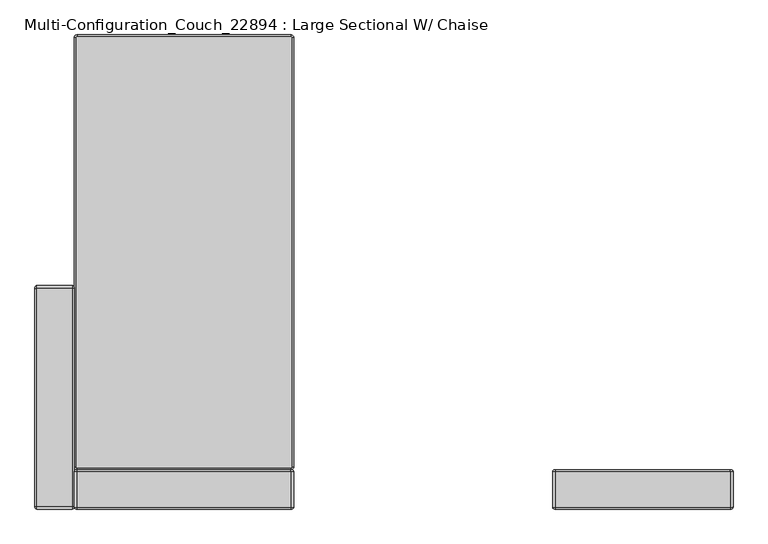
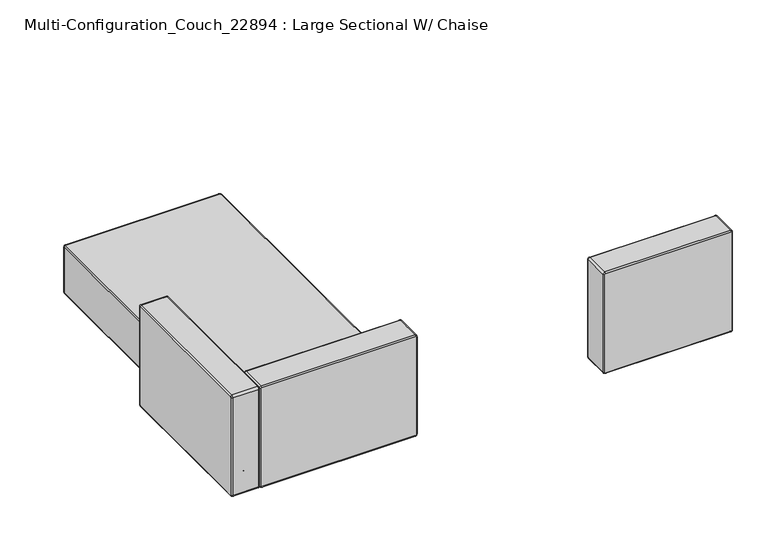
"""IFC4 building model written with IfcOpenShell, lengths in millimetres: furniture geometry, Multi-Configuration_Couch_22894 : Large Sectional W/ Chaise."""

from ifc_helpers import new_model, si_unit, point, frame, origin, place, context, project, spatial, circle_curve, ellipse_curve, trimmed, source, transform, mapped, element, save
from ifc_brep_helpers import plane_surface, cylinder_surface, revolved_surface, advanced_brep


def multi_configuration_couch_22894_large_sectional_w_chaise_6dab8dc7(model_context):
    return source(origin(), model_context, "Body", "AdvancedBrep", [
        advanced_brep(
        [(-842.6762295, -701.7270492, 549.275), (-839.5012295, -701.7270492, 552.45), (-147.3512295, -701.7270492, 552.45), (-144.1762295, -701.7270492, 549.275), (-144.1762295, -701.7270492, 85.725), (-147.3512295, -701.7270492, 82.55), (-839.5012295, -701.7270492, 82.55), (-842.6762295, -701.7270492, 85.725), (-842.6762295, -828.7270492, 85.725), (-839.5012295, -828.7270492, 82.55), (-147.3512295, -828.7270492, 82.55), (-144.1762295, -828.7270492, 85.725), (-144.1762295, -828.7270492, 549.275), (-147.3512295, -828.7270492, 552.45), (-839.5012295, -828.7270492, 552.45), (-842.6762295, -828.7270492, 549.275), (-839.5012295, -708.0770492, 558.8), (-839.5012295, -822.3770492, 558.8), (-147.3512295, -822.3770492, 558.8), (-147.3512295, -708.0770428, 558.8), (-849.0262295, -708.0770492, 85.725), (-849.0262295, -822.3770492, 85.725), (-849.0262295, -822.3770492, 549.275), (-849.0262295, -708.0770492, 549.275), (-147.3512295, -708.0770492, 76.2), (-147.3512295, -822.3770492, 76.2), (-839.5012295, -822.3770492, 76.2), (-839.5012295, -708.0770492, 76.2), (-137.8262295, -708.0770492, 549.275), (-137.8262295, -822.3770492, 549.275), (-137.8262295, -822.3770492, 85.725), (-137.8262295, -708.0770492, 85.725)],
        [
            (0, 1, circle_curve(frame((-839.5012295, -701.7270492, 549.275), z_axis=(0.0, 1.0, 0.0), x_axis=(0.0, 0.0, 1.0)), 3.175)),
            (1, 2),
            (2, 3, circle_curve(frame((-147.3512295, -701.7270492, 549.275), z_axis=(0.0, 1.0, 0.0), x_axis=(1.0, 0.0, 0.0)), 3.175)),
            (3, 4),
            (4, 5, circle_curve(frame((-147.3512295, -701.7270492, 85.725), z_axis=(0.0, 1.0, 0.0), x_axis=(0.0, 0.0, -1.0)), 3.175)),
            (5, 6),
            (6, 7, circle_curve(frame((-839.5012295, -701.7270492, 85.725), z_axis=(0.0, 1.0, 0.0), x_axis=(-1.0, 0.0, 0.0)), 3.175)),
            (7, 0),
            (8, 9, circle_curve(frame((-839.5012295, -828.7270492, 85.725), z_axis=(0.0, -1.0, 0.0), x_axis=(-1.0, 0.0, 0.0)), 3.175)),
            (9, 10),
            (10, 11, circle_curve(frame((-147.3512295, -828.7270492, 85.725), z_axis=(0.0, -1.0, 0.0), x_axis=(0.0, 0.0, -1.0)), 3.175)),
            (11, 12),
            (12, 13, circle_curve(frame((-147.3512295, -828.7270492, 549.275), z_axis=(0.0, -1.0, 0.0), x_axis=(1.0, 0.0, 0.0)), 3.175)),
            (13, 14),
            (14, 15, circle_curve(frame((-839.5012295, -828.7270492, 549.275), z_axis=(0.0, -1.0, 0.0), x_axis=(0.0, 0.0, 1.0)), 3.175)),
            (15, 8),
            (16, 17),
            (17, 18),
            (18, 19),
            (19, 16),
            (20, 21),
            (21, 22),
            (22, 23),
            (23, 20),
            (24, 25),
            (25, 26),
            (26, 27),
            (27, 24),
            (28, 29),
            (29, 30),
            (30, 31),
            (31, 28),
            (22, 17, circle_curve(frame((-839.5012295, -822.3770492, 549.275), z_axis=(0.0, 1.0, 0.0), x_axis=(1.0, 0.0, 0.0)), 9.525)),
            (16, 23, circle_curve(frame((-839.5012295, -708.0770492, 549.275), z_axis=(0.0, -1.0, 0.0), x_axis=(1.0, 0.0, 0.0)), 9.525)),
            (18, 29, circle_curve(frame((-147.3512295, -822.3770492, 549.275), z_axis=(0.0, 1.0, 0.0), x_axis=(1.0, 0.0, 0.0)), 9.525)),
            (28, 19, circle_curve(frame((-147.3512295, -708.0770492, 549.275), z_axis=(0.0, -1.0, 0.0), x_axis=(1.0, 0.0, 0.0)), 9.525)),
            (26, 21, circle_curve(frame((-839.5012295, -822.3770492, 85.725), z_axis=(0.0, 1.0, 0.0), x_axis=(1.0, 0.0, 0.0)), 9.525)),
            (20, 27, circle_curve(frame((-839.5012295, -708.0770492, 85.725), z_axis=(0.0, -1.0, 0.0), x_axis=(1.0, 0.0, 0.0)), 9.525)),
            (30, 25, circle_curve(frame((-147.3512295, -822.3770492, 85.725), z_axis=(0.0, 1.0, 0.0), x_axis=(1.0, 0.0, 0.0)), 9.525)),
            (24, 31, circle_curve(frame((-147.3512295, -708.0770492, 85.725), z_axis=(0.0, -1.0, 0.0), x_axis=(1.0, 0.0, 0.0)), 9.525)),
            (23, 0, circle_curve(frame((-842.6762295, -708.0770492, 549.275), z_axis=(0.0, 0.0, -1.0), x_axis=(1.0, 0.0, 0.0)), 6.35)),
            (7, 20, circle_curve(frame((-842.6762295, -708.0770492, 85.725), z_axis=(0.0, 0.0, 1.0), x_axis=(1.0, 0.0, 0.0)), 6.35)),
            (27, 6, circle_curve(frame((-839.5012295, -708.0770492, 82.55), z_axis=(1.0, 0.0, 0.0), x_axis=(0.0, 0.0, 1.0)), 6.35)),
            (5, 24, circle_curve(frame((-147.3512295, -708.0770492, 82.55), z_axis=(-1.0, 0.0, 0.0), x_axis=(0.0, 0.0, 1.0)), 6.35)),
            (31, 4, circle_curve(frame((-144.1762295, -708.0770492, 85.725), z_axis=(0.0, 0.0, 1.0), x_axis=(-1.0, 0.0, 0.0)), 6.35)),
            (3, 28, circle_curve(frame((-144.1762295, -708.0770492, 549.275), z_axis=(0.0, 0.0, -1.0), x_axis=(-1.0, 0.0, 0.0)), 6.35)),
            (2, 19, circle_curve(frame((-147.3512295, -708.0770492, 552.45), z_axis=(1.0, 0.0, 0.0), x_axis=(0.0, 0.0, -1.0)), 6.35)),
            (1, 16, circle_curve(frame((-839.5012295, -708.0770492, 552.45), z_axis=(1.0, 0.0, 0.0), x_axis=(0.0, 0.0, -1.0)), 6.35)),
            (15, 22, circle_curve(frame((-842.6762295, -822.3770492, 549.275), z_axis=(0.0, 0.0, -1.0), x_axis=(1.0, 0.0, 0.0)), 6.35)),
            (21, 8, circle_curve(frame((-842.6762295, -822.3770492, 85.725), z_axis=(0.0, 0.0, 1.0), x_axis=(1.0, 0.0, 0.0)), 6.35)),
            (9, 26, circle_curve(frame((-839.5012295, -822.3770492, 82.55), z_axis=(1.0, 0.0, 0.0), x_axis=(0.0, 0.0, 1.0)), 6.35)),
            (25, 10, circle_curve(frame((-147.3512295, -822.3770492, 82.55), z_axis=(-1.0, 0.0, 0.0), x_axis=(0.0, 0.0, 1.0)), 6.35)),
            (11, 30, circle_curve(frame((-144.1762295, -822.3770492, 85.725), z_axis=(0.0, 0.0, 1.0), x_axis=(-1.0, 0.0, 0.0)), 6.35)),
            (29, 12, circle_curve(frame((-144.1762295, -822.3770492, 549.275), z_axis=(0.0, 0.0, -1.0), x_axis=(-1.0, 0.0, 0.0)), 6.35)),
            (13, 18, circle_curve(frame((-147.3512295, -822.3770492, 552.45), z_axis=(-1.0, 0.0, 0.0), x_axis=(0.0, 0.0, -1.0)), 6.35)),
            (17, 14, circle_curve(frame((-839.5012295, -822.3770492, 552.45), z_axis=(1.0, 0.0, 0.0), x_axis=(0.0, 0.0, -1.0)), 6.35)),
        ],
        [
            plane_surface(frame((-849.0262295, -701.7270492, 558.8), z_axis=(0.0, 1.0, 0.0), x_axis=(-1.0, 0.0, 0.0))),
            plane_surface(frame((-849.0262295, -828.7270492, 558.8), z_axis=(0.0, -1.0, 0.0), x_axis=(1.0, 0.0, 0.0))),
            plane_surface(frame((-137.8262295, -701.7270492, 558.8), z_axis=(0.0, 0.0, 1.0), x_axis=(0.0, -1.0, 0.0))),
            plane_surface(frame((-849.0262295, -701.7270492, 558.8), z_axis=(-1.0, 0.0, 0.0), x_axis=(0.0, -1.0, 0.0))),
            plane_surface(frame((-849.0262295, -701.7270492, 76.2), z_axis=(0.0, 0.0, -1.0), x_axis=(0.0, -1.0, 0.0))),
            plane_surface(frame((-137.8262295, -701.7270492, 76.2), z_axis=(1.0, 0.0, 0.0), x_axis=(0.0, -1.0, 0.0))),
            cylinder_surface(frame((-839.5012295, -828.7270492, 549.275), z_axis=(0.0, -1.0, 0.0), x_axis=(1.0, 0.0, 0.0)), 9.525),
            cylinder_surface(frame((-147.3512295, -828.7270492, 549.275), z_axis=(0.0, -1.0, 0.0), x_axis=(1.0, 0.0, 0.0)), 9.525),
            cylinder_surface(frame((-839.5012295, -828.7270492, 85.725), z_axis=(0.0, -1.0, 0.0), x_axis=(1.0, 0.0, 0.0)), 9.525),
            cylinder_surface(frame((-147.3512295, -828.7270492, 85.725), z_axis=(0.0, -1.0, 0.0), x_axis=(1.0, 0.0, 0.0)), 9.525),
            cylinder_surface(frame((-842.6762295, -708.0770492, 549.275), z_axis=(0.0, 0.0, -1.0), x_axis=(1.0, 0.0, 0.0)), 6.35),
            cylinder_surface(frame((-839.5012295, -708.0770492, 82.55), z_axis=(1.0, 0.0, 0.0), x_axis=(0.0, 0.0, 1.0)), 6.35),
            cylinder_surface(frame((-144.1762295, -708.0770492, 85.725), z_axis=(0.0, 0.0, 1.0), x_axis=(-1.0, 0.0, 0.0)), 6.35),
            revolved_surface(trimmed(ellipse_curve(frame((-144.1762295, -708.0770492, 549.275), z_axis=(0.0, 0.0, 1.0), x_axis=(-1.0, 0.0, 0.0)), 6.35, 6.35), [point((-137.8262295, -708.0770492, 549.275))], [point((-144.1762295, -701.7270492, 549.275))], True, "CARTESIAN"), (-147.3512295, -701.7270492, 549.275), (0.0, 1.0, 0.0)),
            cylinder_surface(frame((-147.3512295, -708.0770492, 552.45), z_axis=(-1.0, 0.0, 0.0), x_axis=(0.0, 0.0, -1.0)), 6.35),
            cylinder_surface(frame((-842.6762295, -822.3770492, 549.275), z_axis=(0.0, 0.0, -1.0), x_axis=(1.0, 0.0, 0.0)), 6.35),
            cylinder_surface(frame((-839.5012295, -822.3770492, 82.55), z_axis=(1.0, 0.0, 0.0), x_axis=(0.0, 0.0, 1.0)), 6.35),
            cylinder_surface(frame((-144.1762295, -822.3770492, 85.725), z_axis=(0.0, 0.0, 1.0), x_axis=(-1.0, 0.0, 0.0)), 6.35),
            cylinder_surface(frame((-147.3512295, -822.3770492, 552.45), z_axis=(-1.0, 0.0, 0.0), x_axis=(0.0, 0.0, -1.0)), 6.35),
            revolved_surface(trimmed(ellipse_curve(frame((-839.5012295, -708.0770492, 552.45), z_axis=(-1.0, 0.0, 0.0), x_axis=(0.0, 0.0, -1.0)), 6.35, 6.35), [point((-839.5012295, -708.0770492, 558.8))], [point((-839.5012295, -701.7270492, 552.45))], True, "CARTESIAN"), (-839.5012295, -701.7270492, 549.275), (0.0, 1.0, 0.0)),
            revolved_surface(trimmed(ellipse_curve(frame((-842.6762295, -708.0770492, 85.725), z_axis=(0.0, 0.0, -1.0), x_axis=(1.0, 0.0, 0.0)), 6.35, 6.35), [point((-849.0262295, -708.0770492, 85.725))], [point((-842.6762295, -701.7270492, 85.725))], True, "CARTESIAN"), (-839.5012295, -701.7270492, 85.725), (0.0, 1.0, 0.0)),
            revolved_surface(trimmed(ellipse_curve(frame((-147.3512295, -708.0770492, 82.55), z_axis=(1.0, 0.0, 0.0), x_axis=(0.0, 0.0, 1.0)), 6.35, 6.35), [point((-147.3512295, -708.0770492, 76.2))], [point((-147.3512295, -701.7270492, 82.55))], True, "CARTESIAN"), (-147.3512295, -701.7270492, 85.725), (0.0, 1.0, 0.0)),
            revolved_surface(trimmed(ellipse_curve(frame((-839.5012295, -822.3770492, 552.45), z_axis=(-1.0, 0.0, 0.0), x_axis=(0.0, 0.0, -1.0)), 6.35, 6.35), [point((-839.5012295, -828.7270492, 552.45))], [point((-839.5012295, -822.3770492, 558.8))], True, "CARTESIAN"), (-839.5012295, -828.7270492, 549.275), (0.0, 1.0, 0.0)),
            revolved_surface(trimmed(ellipse_curve(frame((-842.6762295, -822.3770492, 85.725), z_axis=(0.0, 0.0, -1.0), x_axis=(1.0, 0.0, 0.0)), 6.35, 6.35), [point((-842.6762295, -828.7270492, 85.725))], [point((-849.0262295, -822.3770492, 85.725))], True, "CARTESIAN"), (-839.5012295, -828.7270492, 85.725), (0.0, 1.0, 0.0)),
            revolved_surface(trimmed(ellipse_curve(frame((-147.3512295, -822.3770492, 82.55), z_axis=(1.0, 0.0, 0.0), x_axis=(0.0, 0.0, 1.0)), 6.35, 6.35), [point((-147.3512295, -828.7270492, 82.55))], [point((-147.3512295, -822.3770492, 76.2))], True, "CARTESIAN"), (-147.3512295, -828.7270492, 85.725), (0.0, 1.0, 0.0)),
            revolved_surface(trimmed(ellipse_curve(frame((-144.1762295, -822.3770492, 549.275), z_axis=(0.0, 0.0, 1.0), x_axis=(-1.0, 0.0, 0.0)), 6.35, 6.35), [point((-144.1762295, -828.7270492, 549.275))], [point((-137.8262295, -822.3770492, 549.275))], True, "CARTESIAN"), (-147.3512295, -828.7270492, 549.275), (0.0, 1.0, 0.0)),
        ],
        [
            (0, [[1, 2, 3, 4, 5, 6, 7, 8]]),
            (1, [[9, 10, 11, 12, 13, 14, 15, 16]]),
            (2, [[17, 18, 19, 20]]),
            (3, [[21, 22, 23, 24]]),
            (4, [[25, 26, 27, 28]]),
            (5, [[29, 30, 31, 32]]),
            (6, [[-23, 33, -17, 34]]),
            (7, [[-19, 35, -29, 36]]),
            (8, [[-27, 37, -21, 38]]),
            (9, [[-31, 39, -25, 40]]),
            (10, [[-24, 41, -8, 42]]),
            (11, [[-28, 43, -6, 44]]),
            (12, [[-32, 45, -4, 46]]),
            (13, [[-3, 47, -36, -46]]),
            (14, [[-2, 48, -20, -47]]),
            (15, [[-16, 49, -22, 50]]),
            (16, [[-10, 51, -26, 52]]),
            (17, [[-12, 53, -30, 54]]),
            (18, [[-14, 55, -18, 56]]),
            (19, [[-34, -48, -1, -41]]),
            (20, [[-7, -43, -38, -42]]),
            (21, [[-5, -45, -40, -44]]),
            (22, [[-15, -56, -33, -49]]),
            (23, [[-37, -51, -9, -50]]),
            (24, [[-39, -53, -11, -52]]),
            (25, [[-35, -55, -13, -54]]),
        ],
    ),
        advanced_brep(
        [(-976.0262295, -822.3770492, 549.275), (-976.0262295, -819.2020492, 552.45), (-976.0262295, -114.3520492, 552.45), (-976.0262295, -111.1770492, 549.275), (-976.0262295, -111.1770492, 85.725), (-976.0262295, -114.3520492, 82.55), (-976.0262295, -819.2020492, 82.55), (-976.0262295, -822.3770492, 85.725), (-849.0262295, -822.3770492, 85.725), (-849.0262295, -819.2020492, 82.55), (-849.0262295, -114.3520492, 82.55), (-849.0262295, -111.1770492, 85.725), (-849.0262295, -111.1770492, 549.275), (-849.0262295, -114.3520492, 552.45), (-849.0262295, -819.2020492, 552.45), (-849.0262295, -822.3770492, 549.275), (-969.6762295, -819.2020492, 558.8), (-855.3762295, -819.2020492, 558.8), (-855.3762295, -114.3520492, 558.8), (-969.6762359, -114.3520492, 558.8), (-969.6762295, -828.7270492, 85.725), (-855.3762295, -828.7270492, 85.725), (-855.3762295, -828.7270492, 549.275), (-969.6762295, -828.7270492, 549.275), (-969.6762295, -114.3520492, 76.2), (-855.3762295, -114.3520492, 76.2), (-855.3762295, -819.2020492, 76.2), (-969.6762295, -819.2020492, 76.2), (-969.6762295, -104.8270492, 549.275), (-855.3762295, -104.8270492, 549.275), (-855.3762295, -104.8270492, 85.725), (-969.6762295, -104.8270492, 85.725)],
        [
            (0, 1, circle_curve(frame((-976.0262295, -819.2020492, 549.275), z_axis=(-1.0, 0.0, 0.0), x_axis=(0.0, 0.0, 1.0)), 3.175)),
            (1, 2),
            (2, 3, circle_curve(frame((-976.0262295, -114.3520492, 549.275), z_axis=(-1.0, 0.0, 0.0), x_axis=(0.0, 1.0, 0.0)), 3.175)),
            (3, 4),
            (4, 5, circle_curve(frame((-976.0262295, -114.3520492, 85.725), z_axis=(-1.0, 0.0, 0.0), x_axis=(0.0, 0.0, -1.0)), 3.175)),
            (5, 6),
            (6, 7, circle_curve(frame((-976.0262295, -819.2020492, 85.725), z_axis=(-1.0, 0.0, 0.0), x_axis=(0.0, -1.0, 0.0)), 3.175)),
            (7, 0),
            (8, 9, circle_curve(frame((-849.0262295, -819.2020492, 85.725), z_axis=(1.0, 0.0, 0.0), x_axis=(0.0, -1.0, 0.0)), 3.175)),
            (9, 10),
            (10, 11, circle_curve(frame((-849.0262295, -114.3520492, 85.725), z_axis=(1.0, 0.0, 0.0), x_axis=(0.0, 0.0, -1.0)), 3.175)),
            (11, 12),
            (12, 13, circle_curve(frame((-849.0262295, -114.3520492, 549.275), z_axis=(1.0, 0.0, 0.0), x_axis=(0.0, 1.0, 0.0)), 3.175)),
            (13, 14),
            (14, 15, circle_curve(frame((-849.0262295, -819.2020492, 549.275), z_axis=(1.0, 0.0, 0.0), x_axis=(0.0, 0.0, 1.0)), 3.175)),
            (15, 8),
            (16, 17),
            (17, 18),
            (18, 19),
            (19, 16),
            (20, 21),
            (21, 22),
            (22, 23),
            (23, 20),
            (24, 25),
            (25, 26),
            (26, 27),
            (27, 24),
            (28, 29),
            (29, 30),
            (30, 31),
            (31, 28),
            (22, 17, circle_curve(frame((-855.3762295, -819.2020492, 549.275), z_axis=(-1.0, 0.0, 0.0), x_axis=(0.0, 1.0, 0.0)), 9.525)),
            (16, 23, circle_curve(frame((-969.6762295, -819.2020492, 549.275), z_axis=(1.0, 0.0, 0.0), x_axis=(0.0, 1.0, 0.0)), 9.525)),
            (18, 29, circle_curve(frame((-855.3762295, -114.3520492, 549.275), z_axis=(-1.0, 0.0, 0.0), x_axis=(0.0, 1.0, 0.0)), 9.525)),
            (28, 19, circle_curve(frame((-969.6762295, -114.3520492, 549.275), z_axis=(1.0, 0.0, 0.0), x_axis=(0.0, 1.0, 0.0)), 9.525)),
            (26, 21, circle_curve(frame((-855.3762295, -819.2020492, 85.725), z_axis=(-1.0, 0.0, 0.0), x_axis=(0.0, 1.0, 0.0)), 9.525)),
            (20, 27, circle_curve(frame((-969.6762295, -819.2020492, 85.725), z_axis=(1.0, 0.0, 0.0), x_axis=(0.0, 1.0, 0.0)), 9.525)),
            (30, 25, circle_curve(frame((-855.3762295, -114.3520492, 85.725), z_axis=(-1.0, 0.0, 0.0), x_axis=(0.0, 1.0, 0.0)), 9.525)),
            (24, 31, circle_curve(frame((-969.6762295, -114.3520492, 85.725), z_axis=(1.0, 0.0, 0.0), x_axis=(0.0, 1.0, 0.0)), 9.525)),
            (23, 0, circle_curve(frame((-969.6762295, -822.3770492, 549.275), z_axis=(0.0, 0.0, -1.0), x_axis=(0.0, 1.0, 0.0)), 6.35)),
            (7, 20, circle_curve(frame((-969.6762295, -822.3770492, 85.725), z_axis=(0.0, 0.0, 1.0), x_axis=(0.0, 1.0, 0.0)), 6.35)),
            (27, 6, circle_curve(frame((-969.6762295, -819.2020492, 82.55), z_axis=(0.0, 1.0, 0.0), x_axis=(0.0, 0.0, 1.0)), 6.35)),
            (5, 24, circle_curve(frame((-969.6762295, -114.3520492, 82.55), z_axis=(0.0, -1.0, 0.0), x_axis=(0.0, 0.0, 1.0)), 6.35)),
            (31, 4, circle_curve(frame((-969.6762295, -111.1770492, 85.725), z_axis=(0.0, 0.0, 1.0), x_axis=(0.0, -1.0, 0.0)), 6.35)),
            (3, 28, circle_curve(frame((-969.6762295, -111.1770492, 549.275), z_axis=(0.0, 0.0, -1.0), x_axis=(0.0, -1.0, 0.0)), 6.35)),
            (2, 19, circle_curve(frame((-969.6762295, -114.3520492, 552.45), z_axis=(0.0, 1.0, 0.0), x_axis=(0.0, 0.0, -1.0)), 6.35)),
            (1, 16, circle_curve(frame((-969.6762295, -819.2020492, 552.45), z_axis=(0.0, 1.0, 0.0), x_axis=(0.0, 0.0, -1.0)), 6.35)),
            (15, 22, circle_curve(frame((-855.3762295, -822.3770492, 549.275), z_axis=(0.0, 0.0, -1.0), x_axis=(0.0, 1.0, 0.0)), 6.35)),
            (21, 8, circle_curve(frame((-855.3762295, -822.3770492, 85.725), z_axis=(0.0, 0.0, 1.0), x_axis=(0.0, 1.0, 0.0)), 6.35)),
            (9, 26, circle_curve(frame((-855.3762295, -819.2020492, 82.55), z_axis=(0.0, 1.0, 0.0), x_axis=(0.0, 0.0, 1.0)), 6.35)),
            (25, 10, circle_curve(frame((-855.3762295, -114.3520492, 82.55), z_axis=(0.0, -1.0, 0.0), x_axis=(0.0, 0.0, 1.0)), 6.35)),
            (11, 30, circle_curve(frame((-855.3762295, -111.1770492, 85.725), z_axis=(0.0, 0.0, 1.0), x_axis=(0.0, -1.0, 0.0)), 6.35)),
            (29, 12, circle_curve(frame((-855.3762295, -111.1770492, 549.275), z_axis=(0.0, 0.0, -1.0), x_axis=(0.0, -1.0, 0.0)), 6.35)),
            (13, 18, circle_curve(frame((-855.3762295, -114.3520492, 552.45), z_axis=(0.0, -1.0, 0.0), x_axis=(0.0, 0.0, -1.0)), 6.35)),
            (17, 14, circle_curve(frame((-855.3762295, -819.2020492, 552.45), z_axis=(0.0, 1.0, 0.0), x_axis=(0.0, 0.0, -1.0)), 6.35)),
        ],
        [
            plane_surface(frame((-976.0262295, -828.7270492, 558.8), z_axis=(-1.0, 0.0, 0.0), x_axis=(0.0, -1.0, 0.0))),
            plane_surface(frame((-849.0262295, -828.7270492, 558.8), z_axis=(1.0, 0.0, 0.0), x_axis=(0.0, 1.0, 0.0))),
            plane_surface(frame((-976.0262295, -104.8270492, 558.8), z_axis=(0.0, 0.0, 1.0), x_axis=(1.0, 0.0, 0.0))),
            plane_surface(frame((-976.0262295, -828.7270492, 558.8), z_axis=(0.0, -1.0, 0.0), x_axis=(1.0, 0.0, 0.0))),
            plane_surface(frame((-976.0262295, -828.7270492, 76.2), z_axis=(0.0, 0.0, -1.0), x_axis=(1.0, 0.0, 0.0))),
            plane_surface(frame((-976.0262295, -104.8270492, 76.2), z_axis=(0.0, 1.0, 0.0), x_axis=(1.0, 0.0, 0.0))),
            cylinder_surface(frame((-849.0262295, -819.2020492, 549.275), z_axis=(1.0, 0.0, 0.0), x_axis=(0.0, 1.0, 0.0)), 9.525),
            cylinder_surface(frame((-849.0262295, -114.3520492, 549.275), z_axis=(1.0, 0.0, 0.0), x_axis=(0.0, 1.0, 0.0)), 9.525),
            cylinder_surface(frame((-849.0262295, -819.2020492, 85.725), z_axis=(1.0, 0.0, 0.0), x_axis=(0.0, 1.0, 0.0)), 9.525),
            cylinder_surface(frame((-849.0262295, -114.3520492, 85.725), z_axis=(1.0, 0.0, 0.0), x_axis=(0.0, 1.0, 0.0)), 9.525),
            cylinder_surface(frame((-969.6762295, -822.3770492, 549.275), z_axis=(0.0, 0.0, -1.0), x_axis=(0.0, 1.0, 0.0)), 6.35),
            cylinder_surface(frame((-969.6762295, -819.2020492, 82.55), z_axis=(0.0, 1.0, 0.0), x_axis=(0.0, 0.0, 1.0)), 6.35),
            cylinder_surface(frame((-969.6762295, -111.1770492, 85.725), z_axis=(0.0, 0.0, 1.0), x_axis=(0.0, -1.0, 0.0)), 6.35),
            revolved_surface(trimmed(ellipse_curve(frame((-969.6762295, -111.1770492, 549.275), z_axis=(0.0, 0.0, 1.0), x_axis=(0.0, -1.0, 0.0)), 6.35, 6.35), [point((-969.6762295, -104.8270492, 549.275))], [point((-976.0262295, -111.1770492, 549.275))], True, "CARTESIAN"), (-976.0262295, -114.3520492, 549.275), (-1.0, 0.0, 0.0)),
            cylinder_surface(frame((-969.6762295, -114.3520492, 552.45), z_axis=(0.0, -1.0, 0.0), x_axis=(0.0, 0.0, -1.0)), 6.35),
            cylinder_surface(frame((-855.3762295, -822.3770492, 549.275), z_axis=(0.0, 0.0, -1.0), x_axis=(0.0, 1.0, 0.0)), 6.35),
            cylinder_surface(frame((-855.3762295, -819.2020492, 82.55), z_axis=(0.0, 1.0, 0.0), x_axis=(0.0, 0.0, 1.0)), 6.35),
            cylinder_surface(frame((-855.3762295, -111.1770492, 85.725), z_axis=(0.0, 0.0, 1.0), x_axis=(0.0, -1.0, 0.0)), 6.35),
            cylinder_surface(frame((-855.3762295, -114.3520492, 552.45), z_axis=(0.0, -1.0, 0.0), x_axis=(0.0, 0.0, -1.0)), 6.35),
            revolved_surface(trimmed(ellipse_curve(frame((-969.6762295, -819.2020492, 552.45), z_axis=(0.0, -1.0, 0.0), x_axis=(0.0, 0.0, -1.0)), 6.35, 6.35), [point((-969.6762295, -819.2020492, 558.8))], [point((-976.0262295, -819.2020492, 552.45))], True, "CARTESIAN"), (-976.0262295, -819.2020492, 549.275), (-1.0, 0.0, 0.0)),
            revolved_surface(trimmed(ellipse_curve(frame((-969.6762295, -822.3770492, 85.725), z_axis=(0.0, 0.0, -1.0), x_axis=(0.0, 1.0, 0.0)), 6.35, 6.35), [point((-969.6762295, -828.7270492, 85.725))], [point((-976.0262295, -822.3770492, 85.725))], True, "CARTESIAN"), (-976.0262295, -819.2020492, 85.725), (-1.0, 0.0, 0.0)),
            revolved_surface(trimmed(ellipse_curve(frame((-969.6762295, -114.3520492, 82.55), z_axis=(0.0, 1.0, 0.0), x_axis=(0.0, 0.0, 1.0)), 6.35, 6.35), [point((-969.6762295, -114.3520492, 76.2))], [point((-976.0262295, -114.3520492, 82.55))], True, "CARTESIAN"), (-976.0262295, -114.3520492, 85.725), (-1.0, 0.0, 0.0)),
            revolved_surface(trimmed(ellipse_curve(frame((-855.3762295, -819.2020492, 552.45), z_axis=(0.0, -1.0, 0.0), x_axis=(0.0, 0.0, -1.0)), 6.35, 6.35), [point((-849.0262295, -819.2020492, 552.45))], [point((-855.3762295, -819.2020492, 558.8))], True, "CARTESIAN"), (-849.0262295, -819.2020492, 549.275), (-1.0, 0.0, 0.0)),
            revolved_surface(trimmed(ellipse_curve(frame((-855.3762295, -822.3770492, 85.725), z_axis=(0.0, 0.0, -1.0), x_axis=(0.0, 1.0, 0.0)), 6.35, 6.35), [point((-849.0262295, -822.3770492, 85.725))], [point((-855.3762295, -828.7270492, 85.725))], True, "CARTESIAN"), (-849.0262295, -819.2020492, 85.725), (-1.0, 0.0, 0.0)),
            revolved_surface(trimmed(ellipse_curve(frame((-855.3762295, -114.3520492, 82.55), z_axis=(0.0, 1.0, 0.0), x_axis=(0.0, 0.0, 1.0)), 6.35, 6.35), [point((-849.0262295, -114.3520492, 82.55))], [point((-855.3762295, -114.3520492, 76.2))], True, "CARTESIAN"), (-849.0262295, -114.3520492, 85.725), (-1.0, 0.0, 0.0)),
            revolved_surface(trimmed(ellipse_curve(frame((-855.3762295, -111.1770492, 549.275), z_axis=(0.0, 0.0, 1.0), x_axis=(0.0, -1.0, 0.0)), 6.35, 6.35), [point((-849.0262295, -111.1770492, 549.275))], [point((-855.3762295, -104.8270492, 549.275))], True, "CARTESIAN"), (-849.0262295, -114.3520492, 549.275), (-1.0, 0.0, 0.0)),
        ],
        [
            (0, [[1, 2, 3, 4, 5, 6, 7, 8]]),
            (1, [[9, 10, 11, 12, 13, 14, 15, 16]]),
            (2, [[17, 18, 19, 20]]),
            (3, [[21, 22, 23, 24]]),
            (4, [[25, 26, 27, 28]]),
            (5, [[29, 30, 31, 32]]),
            (6, [[-23, 33, -17, 34]]),
            (7, [[-19, 35, -29, 36]]),
            (8, [[-27, 37, -21, 38]]),
            (9, [[-31, 39, -25, 40]]),
            (10, [[-24, 41, -8, 42]]),
            (11, [[-28, 43, -6, 44]]),
            (12, [[-32, 45, -4, 46]]),
            (13, [[-3, 47, -36, -46]]),
            (14, [[-2, 48, -20, -47]]),
            (15, [[-16, 49, -22, 50]]),
            (16, [[-10, 51, -26, 52]]),
            (17, [[-12, 53, -30, 54]]),
            (18, [[-14, 55, -18, 56]]),
            (19, [[-34, -48, -1, -41]]),
            (20, [[-7, -43, -38, -42]]),
            (21, [[-5, -45, -40, -44]]),
            (22, [[-15, -56, -33, -49]]),
            (23, [[-37, -51, -9, -50]]),
            (24, [[-39, -53, -11, -52]]),
            (25, [[-35, -55, -13, -54]]),
        ],
    ),
        advanced_brep(
        [(-144.1762295, 698.4479508, 304.8), (-147.3512295, 701.6229508, 304.8), (-839.5012295, 701.6229508, 304.8), (-842.6762295, 698.4479508, 304.8), (-842.6762295, -692.2020492, 304.8), (-839.5012295, -695.3770492, 304.8), (-147.3512295, -695.3770492, 304.8), (-144.1762295, -692.2020492, 304.8), (-144.1762295, -692.2020492, 76.2), (-147.3512295, -695.3770492, 76.2), (-839.5012295, -695.3770492, 76.2), (-842.6762295, -692.2020492, 76.2), (-842.6762295, 698.4479508, 76.2), (-839.5012295, 701.6229508, 76.2), (-147.3512295, 701.6229508, 76.2), (-144.1762295, 698.4479508, 76.2), (-147.3512295, 707.9729508, 298.45), (-147.3512295, 707.9729508, 82.55), (-839.5012295, 707.9729508, 82.55), (-839.5012295, 707.9729508, 298.4500062), (-137.8262295, -692.2020492, 298.45), (-137.8262295, -692.2020492, 82.55), (-137.8262295, 698.4479508, 82.55), (-137.8262295, 698.4479508, 298.45), (-839.5012295, -701.7270492, 298.45), (-839.5012295, -701.7270492, 82.55), (-147.3512295, -701.7270492, 82.55), (-147.3512295, -701.7270492, 298.45), (-849.0262295, 698.4479508, 298.45), (-849.0262295, 698.4479508, 82.55), (-849.0262295, -692.2020492, 82.55), (-849.0262295, -692.2020492, 298.45)],
        [
            (0, 1, circle_curve(frame((-147.3512295, 698.4479508, 304.8), z_axis=(0.0, 0.0, 1.0), x_axis=(0.0, 1.0, 0.0)), 3.175)),
            (1, 2),
            (2, 3, circle_curve(frame((-839.5012295, 698.4479508, 304.8), z_axis=(0.0, 0.0, 1.0), x_axis=(-1.0, 0.0, 0.0)), 3.175)),
            (3, 4),
            (4, 5, circle_curve(frame((-839.5012295, -692.2020492, 304.8), z_axis=(0.0, 0.0, 1.0), x_axis=(0.0, -1.0, 0.0)), 3.175)),
            (5, 6),
            (6, 7, circle_curve(frame((-147.3512295, -692.2020492, 304.8), z_axis=(0.0, 0.0, 1.0), x_axis=(1.0, 0.0, 0.0)), 3.175)),
            (7, 0),
            (8, 9, circle_curve(frame((-147.3512295, -692.2020492, 76.2), z_axis=(0.0, 0.0, -1.0), x_axis=(1.0, 0.0, 0.0)), 3.175)),
            (9, 10),
            (10, 11, circle_curve(frame((-839.5012295, -692.2020492, 76.2), z_axis=(0.0, 0.0, -1.0), x_axis=(0.0, -1.0, 0.0)), 3.175)),
            (11, 12),
            (12, 13, circle_curve(frame((-839.5012295, 698.4479508, 76.2), z_axis=(0.0, 0.0, -1.0), x_axis=(-1.0, 0.0, 0.0)), 3.175)),
            (13, 14),
            (14, 15, circle_curve(frame((-147.3512295, 698.4479508, 76.2), z_axis=(0.0, 0.0, -1.0), x_axis=(0.0, 1.0, 0.0)), 3.175)),
            (15, 8),
            (16, 17),
            (17, 18),
            (18, 19),
            (19, 16),
            (20, 21),
            (21, 22),
            (22, 23),
            (23, 20),
            (24, 25),
            (25, 26),
            (26, 27),
            (27, 24),
            (28, 29),
            (29, 30),
            (30, 31),
            (31, 28),
            (22, 17, circle_curve(frame((-147.3512295, 698.4479508, 82.55), z_axis=(0.0, 0.0, 1.0), x_axis=(-1.0, 0.0, 0.0)), 9.525)),
            (16, 23, circle_curve(frame((-147.3512295, 698.4479508, 298.45), z_axis=(0.0, 0.0, -1.0), x_axis=(-1.0, 0.0, 0.0)), 9.525)),
            (18, 29, circle_curve(frame((-839.5012295, 698.4479508, 82.55), z_axis=(0.0, 0.0, 1.0), x_axis=(-1.0, 0.0, 0.0)), 9.525)),
            (28, 19, circle_curve(frame((-839.5012295, 698.4479508, 298.45), z_axis=(0.0, 0.0, -1.0), x_axis=(-1.0, 0.0, 0.0)), 9.525)),
            (26, 21, circle_curve(frame((-147.3512295, -692.2020492, 82.55), z_axis=(0.0, 0.0, 1.0), x_axis=(-1.0, 0.0, 0.0)), 9.525)),
            (20, 27, circle_curve(frame((-147.3512295, -692.2020492, 298.45), z_axis=(0.0, 0.0, -1.0), x_axis=(-1.0, 0.0, 0.0)), 9.525)),
            (30, 25, circle_curve(frame((-839.5012295, -692.2020492, 82.55), z_axis=(0.0, 0.0, 1.0), x_axis=(-1.0, 0.0, 0.0)), 9.525)),
            (24, 31, circle_curve(frame((-839.5012295, -692.2020492, 298.45), z_axis=(0.0, 0.0, -1.0), x_axis=(-1.0, 0.0, 0.0)), 9.525)),
            (23, 0, circle_curve(frame((-144.1762295, 698.4479508, 298.45), z_axis=(0.0, -1.0, 0.0), x_axis=(-1.0, 0.0, 0.0)), 6.35)),
            (7, 20, circle_curve(frame((-144.1762295, -692.2020492, 298.45), z_axis=(0.0, 1.0, 0.0), x_axis=(-1.0, 0.0, 0.0)), 6.35)),
            (27, 6, circle_curve(frame((-147.3512295, -695.3770492, 298.45), z_axis=(-1.0, 0.0, 0.0), x_axis=(0.0, 1.0, 0.0)), 6.35)),
            (5, 24, circle_curve(frame((-839.5012295, -695.3770492, 298.45), z_axis=(1.0, 0.0, 0.0), x_axis=(0.0, 1.0, 0.0)), 6.35)),
            (31, 4, circle_curve(frame((-842.6762295, -692.2020492, 298.45), z_axis=(0.0, 1.0, 0.0), x_axis=(1.0, 0.0, 0.0)), 6.35)),
            (3, 28, circle_curve(frame((-842.6762295, 698.4479508, 298.45), z_axis=(0.0, -1.0, 0.0), x_axis=(1.0, 0.0, 0.0)), 6.35)),
            (2, 19, circle_curve(frame((-839.5012295, 701.6229508, 298.45), z_axis=(-1.0, 0.0, 0.0), x_axis=(0.0, -1.0, 0.0)), 6.35)),
            (1, 16, circle_curve(frame((-147.3512295, 701.6229508, 298.45), z_axis=(-1.0, 0.0, 0.0), x_axis=(0.0, -1.0, 0.0)), 6.35)),
            (15, 22, circle_curve(frame((-144.1762295, 698.4479508, 82.55), z_axis=(0.0, -1.0, 0.0), x_axis=(-1.0, 0.0, 0.0)), 6.35)),
            (21, 8, circle_curve(frame((-144.1762295, -692.2020492, 82.55), z_axis=(0.0, 1.0, 0.0), x_axis=(-1.0, 0.0, 0.0)), 6.35)),
            (9, 26, circle_curve(frame((-147.3512295, -695.3770492, 82.55), z_axis=(-1.0, 0.0, 0.0), x_axis=(0.0, 1.0, 0.0)), 6.35)),
            (25, 10, circle_curve(frame((-839.5012295, -695.3770492, 82.55), z_axis=(1.0, 0.0, 0.0), x_axis=(0.0, 1.0, 0.0)), 6.35)),
            (11, 30, circle_curve(frame((-842.6762295, -692.2020492, 82.55), z_axis=(0.0, 1.0, 0.0), x_axis=(1.0, 0.0, 0.0)), 6.35)),
            (29, 12, circle_curve(frame((-842.6762295, 698.4479508, 82.55), z_axis=(0.0, -1.0, 0.0), x_axis=(1.0, 0.0, 0.0)), 6.35)),
            (13, 18, circle_curve(frame((-839.5012295, 701.6229508, 82.55), z_axis=(1.0, 0.0, 0.0), x_axis=(0.0, -1.0, 0.0)), 6.35)),
            (17, 14, circle_curve(frame((-147.3512295, 701.6229508, 82.55), z_axis=(-1.0, 0.0, 0.0), x_axis=(0.0, -1.0, 0.0)), 6.35)),
        ],
        [
            plane_surface(frame((-137.8262295, 707.9729508, 304.8), z_axis=(0.0, 0.0, 1.0), x_axis=(1.0, 0.0, 0.0))),
            plane_surface(frame((-137.8262295, 707.9729508, 76.2), z_axis=(0.0, 0.0, -1.0), x_axis=(-1.0, 0.0, 0.0))),
            plane_surface(frame((-849.0262295, 707.9729508, 304.8), z_axis=(0.0, 1.0, 0.0), x_axis=(0.0, 0.0, -1.0))),
            plane_surface(frame((-137.8262295, 707.9729508, 304.8), z_axis=(1.0, 0.0, 0.0), x_axis=(0.0, 0.0, -1.0))),
            plane_surface(frame((-137.8262295, -701.7270492, 304.8), z_axis=(0.0, -1.0, 0.0), x_axis=(0.0, 0.0, -1.0))),
            plane_surface(frame((-849.0262295, -701.7270492, 304.8), z_axis=(-1.0, 0.0, 0.0), x_axis=(0.0, 0.0, -1.0))),
            cylinder_surface(frame((-147.3512295, 698.4479508, 76.2), z_axis=(0.0, 0.0, -1.0), x_axis=(-1.0, 0.0, 0.0)), 9.525),
            cylinder_surface(frame((-839.5012295, 698.4479508, 76.2), z_axis=(0.0, 0.0, -1.0), x_axis=(-1.0, 0.0, 0.0)), 9.525),
            cylinder_surface(frame((-147.3512295, -692.2020492, 76.2), z_axis=(0.0, 0.0, -1.0), x_axis=(-1.0, 0.0, 0.0)), 9.525),
            cylinder_surface(frame((-839.5012295, -692.2020492, 76.2), z_axis=(0.0, 0.0, -1.0), x_axis=(-1.0, 0.0, 0.0)), 9.525),
            cylinder_surface(frame((-144.1762295, 698.4479508, 298.45), z_axis=(0.0, -1.0, 0.0), x_axis=(-1.0, 0.0, 0.0)), 6.35),
            cylinder_surface(frame((-147.3512295, -695.3770492, 298.45), z_axis=(-1.0, 0.0, 0.0), x_axis=(0.0, 1.0, 0.0)), 6.35),
            cylinder_surface(frame((-842.6762295, -692.2020492, 298.45), z_axis=(0.0, 1.0, 0.0), x_axis=(1.0, 0.0, 0.0)), 6.35),
            revolved_surface(trimmed(ellipse_curve(frame((-842.6762295, 698.4479508, 298.45), z_axis=(0.0, 1.0, 0.0), x_axis=(1.0, 0.0, 0.0)), 6.35, 6.35), [point((-849.0262295, 698.4479508, 298.45))], [point((-842.6762295, 698.4479508, 304.8))], True, "CARTESIAN"), (-839.5012295, 698.4479508, 304.8), (0.0, 0.0, 1.0)),
            cylinder_surface(frame((-839.5012295, 701.6229508, 298.45), z_axis=(1.0, 0.0, 0.0), x_axis=(0.0, -1.0, 0.0)), 6.35),
            cylinder_surface(frame((-144.1762295, 698.4479508, 82.55), z_axis=(0.0, -1.0, 0.0), x_axis=(-1.0, 0.0, 0.0)), 6.35),
            cylinder_surface(frame((-147.3512295, -695.3770492, 82.55), z_axis=(-1.0, 0.0, 0.0), x_axis=(0.0, 1.0, 0.0)), 6.35),
            cylinder_surface(frame((-842.6762295, -692.2020492, 82.55), z_axis=(0.0, 1.0, 0.0), x_axis=(1.0, 0.0, 0.0)), 6.35),
            cylinder_surface(frame((-839.5012295, 701.6229508, 82.55), z_axis=(1.0, 0.0, 0.0), x_axis=(0.0, -1.0, 0.0)), 6.35),
            revolved_surface(trimmed(ellipse_curve(frame((-147.3512295, 701.6229508, 298.45), z_axis=(1.0, 0.0, 0.0), x_axis=(0.0, -1.0, 0.0)), 6.35, 6.35), [point((-147.3512295, 707.9729508, 298.45))], [point((-147.3512295, 701.6229508, 304.8))], True, "CARTESIAN"), (-147.3512295, 698.4479508, 304.8), (0.0, 0.0, 1.0)),
            revolved_surface(trimmed(ellipse_curve(frame((-144.1762295, -692.2020492, 298.45), z_axis=(0.0, -1.0, 0.0), x_axis=(-1.0, 0.0, 0.0)), 6.35, 6.35), [point((-137.8262295, -692.2020492, 298.45))], [point((-144.1762295, -692.2020492, 304.8))], True, "CARTESIAN"), (-147.3512295, -692.2020492, 304.8), (0.0, 0.0, 1.0)),
            revolved_surface(trimmed(ellipse_curve(frame((-839.5012295, -695.3770492, 298.45), z_axis=(-1.0, 0.0, 0.0), x_axis=(0.0, 1.0, 0.0)), 6.35, 6.35), [point((-839.5012295, -701.7270492, 298.45))], [point((-839.5012295, -695.3770492, 304.8))], True, "CARTESIAN"), (-839.5012295, -692.2020492, 304.8), (0.0, 0.0, 1.0)),
            revolved_surface(trimmed(ellipse_curve(frame((-147.3512295, 701.6229508, 82.55), z_axis=(1.0, 0.0, 0.0), x_axis=(0.0, -1.0, 0.0)), 6.35, 6.35), [point((-147.3512295, 701.6229508, 76.2))], [point((-147.3512295, 707.9729508, 82.55))], True, "CARTESIAN"), (-147.3512295, 698.4479508, 76.2), (0.0, 0.0, 1.0)),
            revolved_surface(trimmed(ellipse_curve(frame((-144.1762295, -692.2020492, 82.55), z_axis=(0.0, -1.0, 0.0), x_axis=(-1.0, 0.0, 0.0)), 6.35, 6.35), [point((-144.1762295, -692.2020492, 76.2))], [point((-137.8262295, -692.2020492, 82.55))], True, "CARTESIAN"), (-147.3512295, -692.2020492, 76.2), (0.0, 0.0, 1.0)),
            revolved_surface(trimmed(ellipse_curve(frame((-839.5012295, -695.3770492, 82.55), z_axis=(-1.0, 0.0, 0.0), x_axis=(0.0, 1.0, 0.0)), 6.35, 6.35), [point((-839.5012295, -695.3770492, 76.2))], [point((-839.5012295, -701.7270492, 82.55))], True, "CARTESIAN"), (-839.5012295, -692.2020492, 76.2), (0.0, 0.0, 1.0)),
            revolved_surface(trimmed(ellipse_curve(frame((-842.6762295, 698.4479508, 82.55), z_axis=(0.0, 1.0, 0.0), x_axis=(1.0, 0.0, 0.0)), 6.35, 6.35), [point((-842.6762295, 698.4479508, 76.2))], [point((-849.0262295, 698.4479508, 82.55))], True, "CARTESIAN"), (-839.5012295, 698.4479508, 76.2), (0.0, 0.0, 1.0)),
        ],
        [
            (0, [[1, 2, 3, 4, 5, 6, 7, 8]]),
            (1, [[9, 10, 11, 12, 13, 14, 15, 16]]),
            (2, [[17, 18, 19, 20]]),
            (3, [[21, 22, 23, 24]]),
            (4, [[25, 26, 27, 28]]),
            (5, [[29, 30, 31, 32]]),
            (6, [[-23, 33, -17, 34]]),
            (7, [[-19, 35, -29, 36]]),
            (8, [[-27, 37, -21, 38]]),
            (9, [[-31, 39, -25, 40]]),
            (10, [[-24, 41, -8, 42]]),
            (11, [[-28, 43, -6, 44]]),
            (12, [[-32, 45, -4, 46]]),
            (13, [[-3, 47, -36, -46]]),
            (14, [[-2, 48, -20, -47]]),
            (15, [[-16, 49, -22, 50]]),
            (16, [[-10, 51, -26, 52]]),
            (17, [[-12, 53, -30, 54]]),
            (18, [[-14, 55, -18, 56]]),
            (19, [[-34, -48, -1, -41]]),
            (20, [[-7, -43, -38, -42]]),
            (21, [[-5, -45, -40, -44]]),
            (22, [[-15, -56, -33, -49]]),
            (23, [[-37, -51, -9, -50]]),
            (24, [[-39, -53, -11, -52]]),
            (25, [[-35, -55, -13, -54]]),
        ],
    ),
        advanced_brep(
        [(706.7237705, -701.7270492, 549.275), (709.8987705, -701.7270492, 552.45), (1275.0487705, -701.7270492, 552.45), (1278.2237705, -701.7270492, 549.275), (1278.2237705, -701.7270492, 85.725), (1275.0487705, -701.7270492, 82.55), (709.8987705, -701.7270492, 82.55), (706.7237705, -701.7270492, 85.725), (706.7237705, -828.7270492, 85.725), (709.8987705, -828.7270492, 82.55), (1275.0487705, -828.7270492, 82.55), (1278.2237705, -828.7270492, 85.725), (1278.2237705, -828.7270492, 549.275), (1275.0487705, -828.7270492, 552.45), (709.8987705, -828.7270492, 552.45), (706.7237705, -828.7270492, 549.275), (709.8987705, -708.0770492, 558.8), (709.8987705, -822.3770492, 558.8), (1275.0487705, -822.3770492, 558.8), (1275.0487705, -708.0770428, 558.8), (700.3737705, -708.0770492, 85.725), (700.3737705, -822.3770492, 85.725), (700.3737705, -822.3770492, 549.275), (700.3737705, -708.0770492, 549.275), (1275.0487705, -708.0770492, 76.2), (1275.0487705, -822.3770492, 76.2), (709.8987705, -822.3770492, 76.2), (709.8987705, -708.0770492, 76.2), (1284.5737705, -708.0770492, 549.275), (1284.5737705, -822.3770492, 549.275), (1284.5737705, -822.3770492, 85.725), (1284.5737705, -708.0770492, 85.725)],
        [
            (0, 1, circle_curve(frame((709.8987705, -701.7270492, 549.275), z_axis=(0.0, 1.0, 0.0), x_axis=(0.0, 0.0, 1.0)), 3.175)),
            (1, 2),
            (2, 3, circle_curve(frame((1275.0487705, -701.7270492, 549.275), z_axis=(0.0, 1.0, 0.0), x_axis=(1.0, 0.0, 0.0)), 3.175)),
            (3, 4),
            (4, 5, circle_curve(frame((1275.0487705, -701.7270492, 85.725), z_axis=(0.0, 1.0, 0.0), x_axis=(0.0, 0.0, -1.0)), 3.175)),
            (5, 6),
            (6, 7, circle_curve(frame((709.8987705, -701.7270492, 85.725), z_axis=(0.0, 1.0, 0.0), x_axis=(-1.0, 0.0, 0.0)), 3.175)),
            (7, 0),
            (8, 9, circle_curve(frame((709.8987705, -828.7270492, 85.725), z_axis=(0.0, -1.0, 0.0), x_axis=(-1.0, 0.0, 0.0)), 3.175)),
            (9, 10),
            (10, 11, circle_curve(frame((1275.0487705, -828.7270492, 85.725), z_axis=(0.0, -1.0, 0.0), x_axis=(0.0, 0.0, -1.0)), 3.175)),
            (11, 12),
            (12, 13, circle_curve(frame((1275.0487705, -828.7270492, 549.275), z_axis=(0.0, -1.0, 0.0), x_axis=(1.0, 0.0, 0.0)), 3.175)),
            (13, 14),
            (14, 15, circle_curve(frame((709.8987705, -828.7270492, 549.275), z_axis=(0.0, -1.0, 0.0), x_axis=(0.0, 0.0, 1.0)), 3.175)),
            (15, 8),
            (16, 17),
            (17, 18),
            (18, 19),
            (19, 16),
            (20, 21),
            (21, 22),
            (22, 23),
            (23, 20),
            (24, 25),
            (25, 26),
            (26, 27),
            (27, 24),
            (28, 29),
            (29, 30),
            (30, 31),
            (31, 28),
            (22, 17, circle_curve(frame((709.8987705, -822.3770492, 549.275), z_axis=(0.0, 1.0, 0.0), x_axis=(1.0, 0.0, 0.0)), 9.525)),
            (16, 23, circle_curve(frame((709.8987705, -708.0770492, 549.275), z_axis=(0.0, -1.0, 0.0), x_axis=(1.0, 0.0, 0.0)), 9.525)),
            (18, 29, circle_curve(frame((1275.0487705, -822.3770492, 549.275), z_axis=(0.0, 1.0, 0.0), x_axis=(1.0, 0.0, 0.0)), 9.525)),
            (28, 19, circle_curve(frame((1275.0487705, -708.0770492, 549.275), z_axis=(0.0, -1.0, 0.0), x_axis=(1.0, 0.0, 0.0)), 9.525)),
            (26, 21, circle_curve(frame((709.8987705, -822.3770492, 85.725), z_axis=(0.0, 1.0, 0.0), x_axis=(1.0, 0.0, 0.0)), 9.525)),
            (20, 27, circle_curve(frame((709.8987705, -708.0770492, 85.725), z_axis=(0.0, -1.0, 0.0), x_axis=(1.0, 0.0, 0.0)), 9.525)),
            (30, 25, circle_curve(frame((1275.0487705, -822.3770492, 85.725), z_axis=(0.0, 1.0, 0.0), x_axis=(1.0, 0.0, 0.0)), 9.525)),
            (24, 31, circle_curve(frame((1275.0487705, -708.0770492, 85.725), z_axis=(0.0, -1.0, 0.0), x_axis=(1.0, 0.0, 0.0)), 9.525)),
            (23, 0, circle_curve(frame((706.7237705, -708.0770492, 549.275), z_axis=(0.0, 0.0, -1.0), x_axis=(1.0, 0.0, 0.0)), 6.35)),
            (7, 20, circle_curve(frame((706.7237705, -708.0770492, 85.725), z_axis=(0.0, 0.0, 1.0), x_axis=(1.0, 0.0, 0.0)), 6.35)),
            (27, 6, circle_curve(frame((709.8987705, -708.0770492, 82.55), z_axis=(1.0, 0.0, 0.0), x_axis=(0.0, 0.0, 1.0)), 6.35)),
            (5, 24, circle_curve(frame((1275.0487705, -708.0770492, 82.55), z_axis=(-1.0, 0.0, 0.0), x_axis=(0.0, 0.0, 1.0)), 6.35)),
            (31, 4, circle_curve(frame((1278.2237705, -708.0770492, 85.725), z_axis=(0.0, 0.0, 1.0), x_axis=(-1.0, 0.0, 0.0)), 6.35)),
            (3, 28, circle_curve(frame((1278.2237705, -708.0770492, 549.275), z_axis=(0.0, 0.0, -1.0), x_axis=(-1.0, 0.0, 0.0)), 6.35)),
            (2, 19, circle_curve(frame((1275.0487705, -708.0770492, 552.45), z_axis=(1.0, 0.0, 0.0), x_axis=(0.0, 0.0, -1.0)), 6.35)),
            (1, 16, circle_curve(frame((709.8987705, -708.0770492, 552.45), z_axis=(1.0, 0.0, 0.0), x_axis=(0.0, 0.0, -1.0)), 6.35)),
            (15, 22, circle_curve(frame((706.7237705, -822.3770492, 549.275), z_axis=(0.0, 0.0, -1.0), x_axis=(1.0, 0.0, 0.0)), 6.35)),
            (21, 8, circle_curve(frame((706.7237705, -822.3770492, 85.725), z_axis=(0.0, 0.0, 1.0), x_axis=(1.0, 0.0, 0.0)), 6.35)),
            (9, 26, circle_curve(frame((709.8987705, -822.3770492, 82.55), z_axis=(1.0, 0.0, 0.0), x_axis=(0.0, 0.0, 1.0)), 6.35)),
            (25, 10, circle_curve(frame((1275.0487705, -822.3770492, 82.55), z_axis=(-1.0, 0.0, 0.0), x_axis=(0.0, 0.0, 1.0)), 6.35)),
            (11, 30, circle_curve(frame((1278.2237705, -822.3770492, 85.725), z_axis=(0.0, 0.0, 1.0), x_axis=(-1.0, 0.0, 0.0)), 6.35)),
            (29, 12, circle_curve(frame((1278.2237705, -822.3770492, 549.275), z_axis=(0.0, 0.0, -1.0), x_axis=(-1.0, 0.0, 0.0)), 6.35)),
            (13, 18, circle_curve(frame((1275.0487705, -822.3770492, 552.45), z_axis=(-1.0, 0.0, 0.0), x_axis=(0.0, 0.0, -1.0)), 6.35)),
            (17, 14, circle_curve(frame((709.8987705, -822.3770492, 552.45), z_axis=(1.0, 0.0, 0.0), x_axis=(0.0, 0.0, -1.0)), 6.35)),
        ],
        [
            plane_surface(frame((700.3737705, -701.7270492, 558.8), z_axis=(0.0, 1.0, 0.0), x_axis=(-1.0, 0.0, 0.0))),
            plane_surface(frame((700.3737705, -828.7270492, 558.8), z_axis=(0.0, -1.0, 0.0), x_axis=(1.0, 0.0, 0.0))),
            plane_surface(frame((1284.5737705, -701.7270492, 558.8), z_axis=(0.0, 0.0, 1.0), x_axis=(0.0, -1.0, 0.0))),
            plane_surface(frame((700.3737705, -701.7270492, 558.8), z_axis=(-1.0, 0.0, 0.0), x_axis=(0.0, -1.0, 0.0))),
            plane_surface(frame((700.3737705, -701.7270492, 76.2), z_axis=(0.0, 0.0, -1.0), x_axis=(0.0, -1.0, 0.0))),
            plane_surface(frame((1284.5737705, -701.7270492, 76.2), z_axis=(1.0, 0.0, 0.0), x_axis=(0.0, -1.0, 0.0))),
            cylinder_surface(frame((709.8987705, -828.7270492, 549.275), z_axis=(0.0, -1.0, 0.0), x_axis=(1.0, 0.0, 0.0)), 9.525),
            cylinder_surface(frame((1275.0487705, -828.7270492, 549.275), z_axis=(0.0, -1.0, 0.0), x_axis=(1.0, 0.0, 0.0)), 9.525),
            cylinder_surface(frame((709.8987705, -828.7270492, 85.725), z_axis=(0.0, -1.0, 0.0), x_axis=(1.0, 0.0, 0.0)), 9.525),
            cylinder_surface(frame((1275.0487705, -828.7270492, 85.725), z_axis=(0.0, -1.0, 0.0), x_axis=(1.0, 0.0, 0.0)), 9.525),
            cylinder_surface(frame((706.7237705, -708.0770492, 549.275), z_axis=(0.0, 0.0, -1.0), x_axis=(1.0, 0.0, 0.0)), 6.35),
            cylinder_surface(frame((709.8987705, -708.0770492, 82.55), z_axis=(1.0, 0.0, 0.0), x_axis=(0.0, 0.0, 1.0)), 6.35),
            cylinder_surface(frame((1278.2237705, -708.0770492, 85.725), z_axis=(0.0, 0.0, 1.0), x_axis=(-1.0, 0.0, 0.0)), 6.35),
            revolved_surface(trimmed(ellipse_curve(frame((1278.2237705, -708.0770492, 549.275), z_axis=(0.0, 0.0, 1.0), x_axis=(-1.0, 0.0, 0.0)), 6.35, 6.35), [point((1284.5737705, -708.0770492, 549.275))], [point((1278.2237705, -701.7270492, 549.275))], True, "CARTESIAN"), (1275.0487705, -701.7270492, 549.275), (0.0, 1.0, 0.0)),
            cylinder_surface(frame((1275.0487705, -708.0770492, 552.45), z_axis=(-1.0, 0.0, 0.0), x_axis=(0.0, 0.0, -1.0)), 6.35),
            cylinder_surface(frame((706.7237705, -822.3770492, 549.275), z_axis=(0.0, 0.0, -1.0), x_axis=(1.0, 0.0, 0.0)), 6.35),
            cylinder_surface(frame((709.8987705, -822.3770492, 82.55), z_axis=(1.0, 0.0, 0.0), x_axis=(0.0, 0.0, 1.0)), 6.35),
            cylinder_surface(frame((1278.2237705, -822.3770492, 85.725), z_axis=(0.0, 0.0, 1.0), x_axis=(-1.0, 0.0, 0.0)), 6.35),
            cylinder_surface(frame((1275.0487705, -822.3770492, 552.45), z_axis=(-1.0, 0.0, 0.0), x_axis=(0.0, 0.0, -1.0)), 6.35),
            revolved_surface(trimmed(ellipse_curve(frame((709.8987705, -708.0770492, 552.45), z_axis=(-1.0, 0.0, 0.0), x_axis=(0.0, 0.0, -1.0)), 6.35, 6.35), [point((709.8987705, -708.0770492, 558.8))], [point((709.8987705, -701.7270492, 552.45))], True, "CARTESIAN"), (709.8987705, -701.7270492, 549.275), (0.0, 1.0, 0.0)),
            revolved_surface(trimmed(ellipse_curve(frame((706.7237705, -708.0770492, 85.725), z_axis=(0.0, 0.0, -1.0), x_axis=(1.0, 0.0, 0.0)), 6.35, 6.35), [point((700.3737705, -708.0770492, 85.725))], [point((706.7237705, -701.7270492, 85.725))], True, "CARTESIAN"), (709.8987705, -701.7270492, 85.725), (0.0, 1.0, 0.0)),
            revolved_surface(trimmed(ellipse_curve(frame((1275.0487705, -708.0770492, 82.55), z_axis=(1.0, 0.0, 0.0), x_axis=(0.0, 0.0, 1.0)), 6.35, 6.35), [point((1275.0487705, -708.0770492, 76.2))], [point((1275.0487705, -701.7270492, 82.55))], True, "CARTESIAN"), (1275.0487705, -701.7270492, 85.725), (0.0, 1.0, 0.0)),
            revolved_surface(trimmed(ellipse_curve(frame((709.8987705, -822.3770492, 552.45), z_axis=(-1.0, 0.0, 0.0), x_axis=(0.0, 0.0, -1.0)), 6.35, 6.35), [point((709.8987705, -828.7270492, 552.45))], [point((709.8987705, -822.3770492, 558.8))], True, "CARTESIAN"), (709.8987705, -828.7270492, 549.275), (0.0, 1.0, 0.0)),
            revolved_surface(trimmed(ellipse_curve(frame((706.7237705, -822.3770492, 85.725), z_axis=(0.0, 0.0, -1.0), x_axis=(1.0, 0.0, 0.0)), 6.35, 6.35), [point((706.7237705, -828.7270492, 85.725))], [point((700.3737705, -822.3770492, 85.725))], True, "CARTESIAN"), (709.8987705, -828.7270492, 85.725), (0.0, 1.0, 0.0)),
            revolved_surface(trimmed(ellipse_curve(frame((1275.0487705, -822.3770492, 82.55), z_axis=(1.0, 0.0, 0.0), x_axis=(0.0, 0.0, 1.0)), 6.35, 6.35), [point((1275.0487705, -828.7270492, 82.55))], [point((1275.0487705, -822.3770492, 76.2))], True, "CARTESIAN"), (1275.0487705, -828.7270492, 85.725), (0.0, 1.0, 0.0)),
            revolved_surface(trimmed(ellipse_curve(frame((1278.2237705, -822.3770492, 549.275), z_axis=(0.0, 0.0, 1.0), x_axis=(-1.0, 0.0, 0.0)), 6.35, 6.35), [point((1278.2237705, -828.7270492, 549.275))], [point((1284.5737705, -822.3770492, 549.275))], True, "CARTESIAN"), (1275.0487705, -828.7270492, 549.275), (0.0, 1.0, 0.0)),
        ],
        [
            (0, [[1, 2, 3, 4, 5, 6, 7, 8]]),
            (1, [[9, 10, 11, 12, 13, 14, 15, 16]]),
            (2, [[17, 18, 19, 20]]),
            (3, [[21, 22, 23, 24]]),
            (4, [[25, 26, 27, 28]]),
            (5, [[29, 30, 31, 32]]),
            (6, [[-23, 33, -17, 34]]),
            (7, [[-19, 35, -29, 36]]),
            (8, [[-27, 37, -21, 38]]),
            (9, [[-31, 39, -25, 40]]),
            (10, [[-24, 41, -8, 42]]),
            (11, [[-28, 43, -6, 44]]),
            (12, [[-32, 45, -4, 46]]),
            (13, [[-3, 47, -36, -46]]),
            (14, [[-2, 48, -20, -47]]),
            (15, [[-16, 49, -22, 50]]),
            (16, [[-10, 51, -26, 52]]),
            (17, [[-12, 53, -30, 54]]),
            (18, [[-14, 55, -18, 56]]),
            (19, [[-34, -48, -1, -41]]),
            (20, [[-7, -43, -38, -42]]),
            (21, [[-5, -45, -40, -44]]),
            (22, [[-15, -56, -33, -49]]),
            (23, [[-37, -51, -9, -50]]),
            (24, [[-39, -53, -11, -52]]),
            (25, [[-35, -55, -13, -54]]),
        ],
    ),
    ])


if __name__ == "__main__":
    model = new_model("IFC4")
    model_context = context("Model", 3, world=origin())
    ifc_project = project(units=[si_unit("LENGTHUNIT", "METRE", prefix="MILLI")], contexts=[model_context])
    site = spatial("IfcSite", under=ifc_project)
    building = spatial("IfcBuilding", under=site)
    placement = place(None, origin())
    multi_configuration_couch_22894_large_sectional_w_chaise_shape = multi_configuration_couch_22894_large_sectional_w_chaise_6dab8dc7(model_context)
    element("IfcFurniture", 1, ObjectType="Multi-Configuration_Couch_22894 : Large Sectional W/ Chaise", at=placement, inside=building, context=model_context, shape_type="MappedRepresentation", body=[
        mapped(multi_configuration_couch_22894_large_sectional_w_chaise_shape, transform((0.0, 0.0, 0.0), x_axis=(1.0, 0.0, 0.0), y_axis=(0.0, 1.0, 0.0), z_axis=(0.0, 0.0, 1.0))),
    ])
    save(model, "model.ifc")
